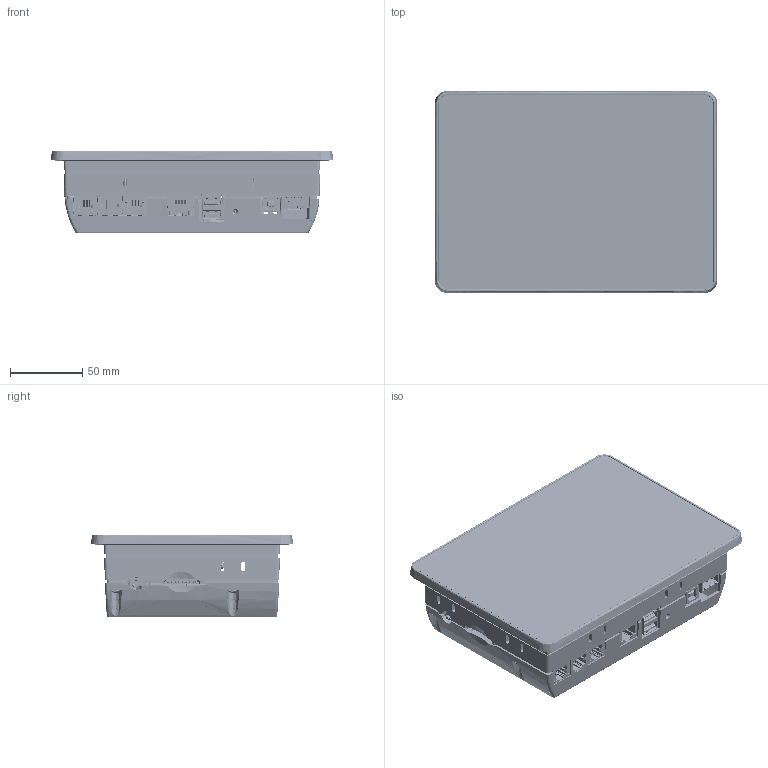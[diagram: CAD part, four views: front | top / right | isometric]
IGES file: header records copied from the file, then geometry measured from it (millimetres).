
Start section: SolidWorks IGES file using analytic representation for surfaces
Global section: file name: U:\ericp\3D_models_for_customers\Graphite\G07\G07.IGS; native system: SolidWorks 2013; preprocessor: SolidWorks 2013; author: ericp; date: 130916.110304; units: millimetre
Bounding box: 195.54 x 139.9 x 57.13 mm (x, y, z)
Surface area: 538250.4 mm2 (no closed solid volume)
Topology: 0 solids, 0 shells, 26075 faces, 196931 edges, 196550 vertices
Faces by surface type: bspline 18323, revolution 7752
